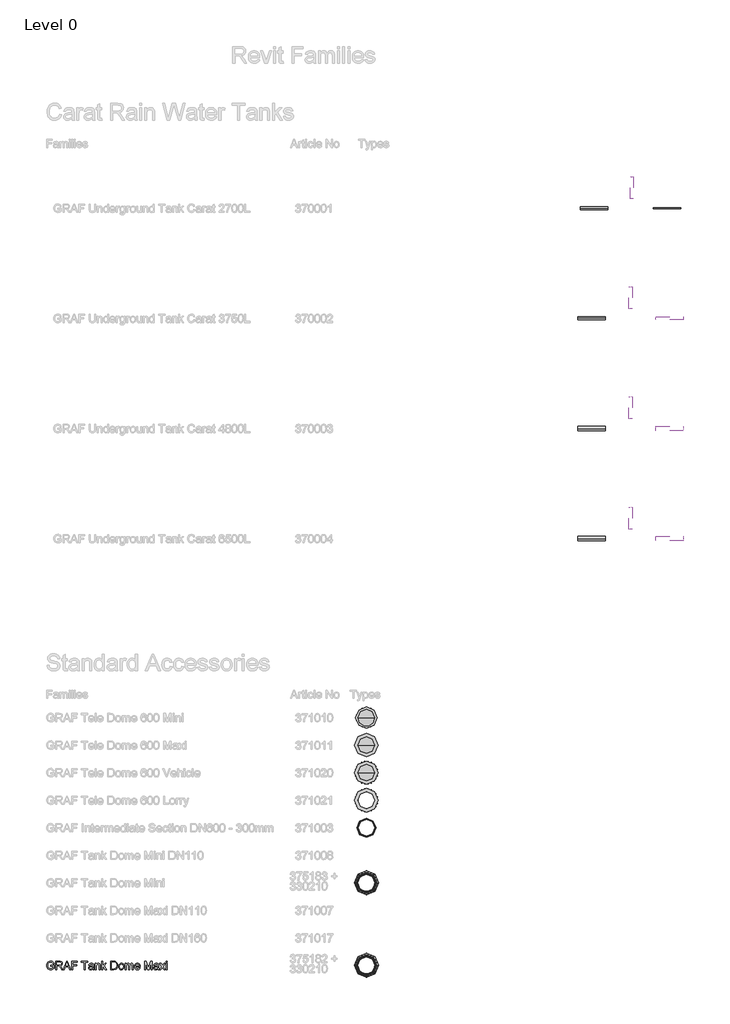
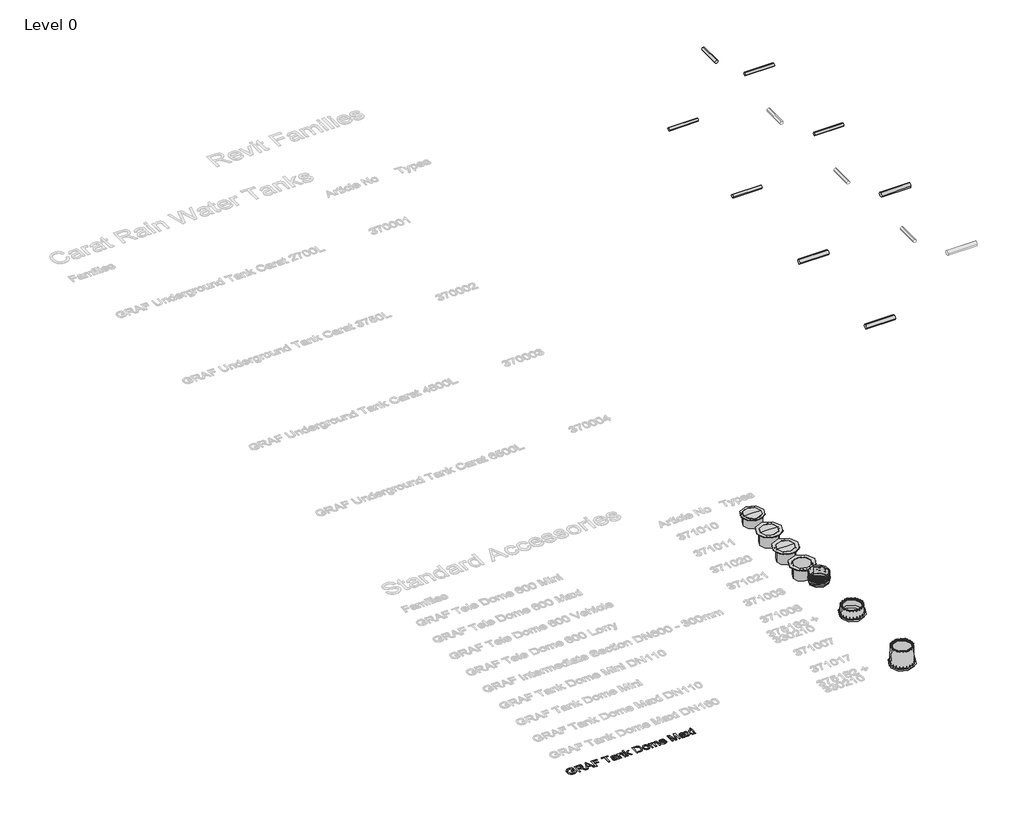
# One storey, part 1 of 19: 12 pipe segments, 8 proxies.
"""IFC4 building model written with IfcOpenShell, lengths in millimetres."""

from ifc_helpers import new_model, si_unit, point, frame, frame_2d, origin, origin_with_axes, place, context, project, spatial, polyline, circle_curve, trimmed, segment, composite_curve, outline, extrude, transform, mapped, element, save
from components import specialty_equipment_e8b2a2d0, specialty_equipment_5184973a, specialty_equipment_2c5f0238, proxy_600_mini_2_8c9d897d, dome_600_vehicle_2_504724ee, intermediate_section_dn600_300mm_2_32245d74, tank_dome_mini_c82e10f8

model = new_model("IFC4")

# Units and contexts
model_context = context("Model", 3, world=origin())
ifc_project = project(units=[si_unit("LENGTHUNIT", "METRE", prefix="MILLI")], contexts=[model_context])

# Site, building, storey
site = spatial("IfcSite", under=ifc_project)
building = spatial("IfcBuilding", under=site)
storey = spatial("IfcBuildingStorey", under=building, Name="Level 0", Elevation=0.0)

# Proxies
placement = place(None, origin())
specialty_equipment_shape = specialty_equipment_e8b2a2d0(model_context)
element("IfcBuildingElementProxy", 1, Name="GRAF Tank Dome Maxi : Tank Dome Maxi", ObjectType="GRAF Tank Dome Maxi : Tank Dome Maxi", at=placement, inside=storey, context=model_context, shape_type="MappedRepresentation", body=[
    mapped(specialty_equipment_shape, transform((-3770.8351154, -18050.7016432, 0.0), x_axis=(1.0, 0.0, 0.0), y_axis=(0.0, 1.0, 0.0), z_axis=(0.0, 0.0, 1.0))),
])
specialty_equipment_2_shape = specialty_equipment_5184973a(model_context)
element("IfcBuildingElementProxy", 2, Name="GRAF Tele Dome 600 Maxi : 600 Maxi 2", ObjectType="GRAF Tele Dome 600 Maxi : 600 Maxi 2", at=placement, inside=storey, context=model_context, shape_type="MappedRepresentation", body=[
    mapped(specialty_equipment_2_shape, transform((-3770.8351154, -10051.0975649, 0.0), x_axis=(1.0, 0.0, 0.0), y_axis=(0.0, 1.0, 0.0), z_axis=(0.0, 0.0, 1.0))),
])
specialty_equipment_3_shape = specialty_equipment_2c5f0238(model_context)
element("IfcBuildingElementProxy", 3, Name="GRAF Tele Dome 600 Lorry : Dome 600 Lorry 2", ObjectType="GRAF Tele Dome 600 Lorry : Dome 600 Lorry 2", at=placement, inside=storey, context=model_context, shape_type="MappedRepresentation", body=[
    mapped(specialty_equipment_3_shape, transform((-3770.8351154, -12050.7016432, 0.0), x_axis=(1.0, 0.0, 0.0), y_axis=(0.0, 1.0, 0.0), z_axis=(0.0, 0.0, 1.0))),
])
element("IfcBuildingElementProxy", 4, Name="300mm Arial", ObjectType="300mm Arial", at=placement, inside=storey, context=model_context, shape_type="SweptSolid", body=[
    extrude(outline(polyline([(-15240.9940387, -18082.9794047), (-15240.9940387, -18045.3082884), (-15118.5629107, -18045.3082884), (-15118.5629107, -18157.9537553), (-15148.3153671, -18178.6471176), (-15179.0059225, -18193.4911561), (-15210.5610007, -18202.4306885), (-15242.9070251, -18205.4105327), (-15285.1674693, -18200.674052), (-15323.3628175, -18186.46461), (-15355.0926395, -18163.2788472), (-15377.9565055, -18131.6134045), (-15391.7796715, -18093.6295885), (-15396.3873935, -18051.4887059), (-15391.7980656, -18009.0443207), (-15378.0300819, -17969.5613856), (-15355.6536596, -17936.442809), (-15325.2390156, -17913.0914993), (-15288.1932987, -17899.2407422), (-15245.9236575, -17894.6238232), (-15214.8928112, -17897.3001647), (-15186.9889618, -17905.3291892), (-15163.4904994, -17918.1314827), (-15145.6758138, -17935.1276309), (-15132.4964413, -17957.1361712), (-15122.9039183, -17984.9756412), (-15157.6319786, -17994.7613023), (-15165.3850917, -17974.9048716), (-15174.8120678, -17959.9228773), (-15187.2832674, -17948.6289001), (-15204.169051, -17939.8365204), (-15224.3013932, -17934.1803347), (-15246.5122687, -17932.2949395), (-15272.5123287, -17934.3274875), (-15294.7415982, -17940.4251316), (-15313.1173039, -17949.8245166), (-15327.5566722, -17961.7622873), (-15346.9440533, -17990.7881767), (-15355.7732212, -18019.225455), (-15358.7162772, -18049.9436015), (-15355.175413, -18085.9684459), (-15344.5528204, -18115.6105377), (-15327.1703961, -18138.6583447), (-15303.3500369, -18154.9003348), (-15275.4737787, -18164.529646), (-15245.9236575, -18167.7394164), (-15219.831627, -18165.3205923), (-15194.3833899, -18158.0641199), (-15172.2828791, -18148.0669267), (-15156.234027, -18137.42594), (-15156.234027, -18082.9794047), (-15240.9940387, -18082.9794047)])), origin_with_axes(), (0.0, 0.0, 1.0), 10.0),
    extrude(outline(polyline([(-15057.3473467, -18200.7016432), (-15057.3473467, -17899.3327127), (-14927.4850024, -17899.3327127), (-14892.5821982, -17901.3652607), (-14867.1891434, -17907.4629048), (-14848.6294968, -17918.7200939), (-14834.2269167, -17936.2312768), (-14824.9838815, -17957.9455116), (-14821.9028698, -17981.811856), (-14827.0072325, -18011.4999331), (-14842.3203206, -18036.1112385), (-14853.9200997, -18046.1406214), (-14868.3019865, -18054.1558504), (-14905.4120827, -18064.1438466), (-14884.0013506, -18080.257078), (-14853.467145, -18119.0318402), (-14803.2144645, -18200.7016432), (-14846.9924219, -18200.7016432), (-14886.2086426, -18138.2352804), (-14914.5355562, -18096.8853441), (-14934.4379722, -18077.3508102), (-14952.3538253, -18070.1771113), (-14974.2060158, -18068.8527361), (-15019.6762304, -18068.8527361), (-15019.6762304, -18200.7016432), (-15057.3473467, -18200.7016432)]), holes=[polyline([(-15019.6762304, -18031.1816198), (-14935.3576771, -18031.1816198), (-14911.1418448, -18029.8480476), (-14892.3522719, -18025.8473309), (-14878.2072092, -18018.9127553), (-14867.9249074, -18008.7776063), (-14861.6617165, -17996.5179388), (-14859.5739861, -17983.2098076), (-14863.5563087, -17964.834102), (-14875.5032765, -17950.0268517), (-14896.058683, -17940.2595847), (-14925.8663217, -17937.003829), (-15019.6762304, -17937.003829), (-15019.6762304, -18031.1816198)])]), origin_with_axes(), (0.0, 0.0, 1.0), 10.0),
    extrude(outline(polyline([(-14791.0743586, -18200.7016432), (-14670.7769462, -17899.3327127), (-14638.6976362, -17899.3327127), (-14518.4002238, -18200.7016432), (-14558.2050557, -18200.7016432), (-14592.7123868, -18106.5238524), (-14716.835772, -18106.5238524), (-14751.2695268, -18200.7016432), (-14791.0743586, -18200.7016432)]), holes=[polyline([(-14703.003409, -18068.8527361), (-14606.4711735, -18068.8527361), (-14633.6208647, -17994.7613023), (-14654.7372912, -17937.003829), (-14673.499273, -17988.2865792), (-14703.003409, -18068.8527361)])]), origin_with_axes(), (0.0, 0.0, 1.0), 10.0),
    extrude(outline(polyline([(-14478.1539335, -18200.7016432), (-14478.1539335, -17899.3327127), (-14275.6716834, -17899.3327127), (-14275.6716834, -17937.003829), (-14440.4828172, -17937.003829), (-14440.4828172, -18026.4727303), (-14299.2161311, -18026.4727303), (-14299.2161311, -18064.1438466), (-14440.4828172, -18064.1438466), (-14440.4828172, -18200.7016432), (-14478.1539335, -18200.7016432)])), origin_with_axes(), (0.0, 0.0, 1.0), 10.0),
    extrude(outline(polyline([(-14030.8094274, -18200.7016432), (-14030.8094274, -17937.003829), (-14129.6961077, -17937.003829), (-14129.6961077, -17899.3327127), (-13894.2516308, -17899.3327127), (-13894.2516308, -17937.003829), (-13993.1383111, -17937.003829), (-13993.1383111, -18200.7016432), (-14030.8094274, -18200.7016432)])), origin_with_axes(), (0.0, 0.0, 1.0), 10.0),
    extrude(outline(polyline([(-13715.3138283, -18172.4483059), (-13733.312455, -18187.8809556), (-13751.8445105, -18197.9793164), (-13771.3330592, -18203.5527286), (-13792.2011653, -18205.4105327), (-13823.6826671, -18200.9407665), (-13846.905218, -18187.5314677), (-13861.2250247, -18167.1691993), (-13865.9982936, -18141.8405239), (-13864.1956718, -18126.2239332), (-13858.7878065, -18112.0420823), (-13850.4460822, -18099.9019765), (-13839.8418837, -18090.410621), (-13813.4647447, -18078.049786), (-13780.8703999, -18072.3844033), (-13742.353155, -18066.4247149), (-13715.5345575, -18059.434957), (-13715.3138283, -18051.0472475), (-13717.9073964, -18034.2350404), (-13725.6881006, -18023.2353687), (-13743.088919, -18015.0683884), (-13767.3323425, -18012.3460616), (-13789.7731442, -18014.1578805), (-13805.4449172, -18019.5933369), (-13816.1318891, -18029.6457125), (-13823.6182877, -18045.3082884), (-13861.289404, -18040.5993989), (-13854.7503016, -18019.9980071), (-13844.9922316, -18003.8111994), (-13831.1046863, -17991.4319702), (-13812.1771577, -17982.2533144), (-13789.0281831, -17976.5695376), (-13762.4763001, -17974.6749453), (-13737.009669, -17976.3488084), (-13716.8221445, -17981.3703976), (-13701.601027, -17988.9211756), (-13691.0336167, -17998.1826048), (-13684.0254646, -18009.6329319), (-13679.482122, -18023.7504035), (-13677.642712, -18056.7126303), (-13677.642712, -18103.5807964), (-13675.7297257, -18169.0270034), (-13668.224933, -18200.7016432), (-13705.8960493, -18200.7016432), (-13715.3138283, -18172.4483059)]), holes=[polyline([(-13715.3138283, -18097.1060733), (-13776.0879339, -18108.657568), (-13808.4983377, -18114.7644091), (-13823.1768293, -18124.697223), (-13828.3271773, -18139.1917736), (-13825.522077, -18150.3937803), (-13817.1067764, -18159.5724361), (-13803.2652163, -18165.6976713), (-13784.1813378, -18167.7394164), (-13763.9478281, -18165.4861392), (-13746.0687631, -18158.7263075), (-13731.5742125, -18148.7659025), (-13721.4942459, -18136.9109052), (-13717.0244796, -18124.697223), (-13715.5345575, -18107.7746512), (-13715.3138283, -18097.1060733)])]), origin_with_axes(), (0.0, 0.0, 1.0), 10.0),
    extrude(outline(polyline([(-13625.8449271, -18200.7016432), (-13625.8449271, -17979.3838349), (-13588.1738108, -17979.3838349), (-13588.1738108, -18010.2859225), (-13575.0864088, -17994.70612), (-13559.3686506, -17983.5776896), (-13541.0205361, -17976.9006314), (-13520.0420653, -17974.6749453), (-13501.4732216, -17976.4683701), (-13484.4678764, -17981.8486442), (-13470.2860255, -17990.1443832), (-13460.1876647, -18000.6842024), (-13448.8936874, -18028.3857166), (-13446.9071247, -18064.8060342), (-13446.9071247, -18200.7016432), (-13484.578241, -18200.7016432), (-13484.578241, -18069.8828057), (-13488.9192485, -18036.5526969), (-13494.9249221, -18026.6290801), (-13504.2599277, -18018.9311494), (-13516.2252896, -18013.9923336), (-13530.122032, -18012.3460616), (-13552.1857546, -18016.0432757), (-13570.9937216, -18027.1349178), (-13578.5100106, -18036.1894135), (-13583.8787885, -18048.5640441), (-13588.1738108, -18083.2737103), (-13588.1738108, -18200.7016432), (-13625.8449271, -18200.7016432)])), origin_with_axes(), (0.0, 0.0, 1.0), 10.0),
    extrude(outline(polyline([(-13395.1093397, -18200.7016432), (-13395.1093397, -17899.3327127), (-13357.4382234, -17899.3327127), (-13357.4382234, -18061.274367), (-13272.9725173, -17979.3838349), (-13220.8804268, -17979.3838349), (-13306.3762025, -18062.3044366), (-13216.1715373, -18200.7016432), (-13260.1702239, -18200.7016432), (-13333.3787409, -18088.4976346), (-13357.4382234, -18111.8213531), (-13357.4382234, -18200.7016432), (-13395.1093397, -18200.7016432)])), origin_with_axes(), (0.0, 0.0, 1.0), 10.0),
    extrude(outline(polyline([(-13060.7781825, -18200.7016432), (-13060.7781825, -17899.3327127), (-12956.8147307, -17899.3327127), (-12903.030383, -17903.6737203), (-12879.0076887, -17912.0430357), (-12858.7373908, -17925.2316052), (-12837.8968757, -17948.1874417), (-12823.0528372, -17976.7350845), (-12814.1684871, -18010.3227107), (-12811.207037, -18048.3984972), (-12813.2119939, -18080.7445216), (-12819.2268645, -18109.209391), (-12828.3871262, -18133.4436174), (-12839.8282562, -18153.097713), (-12852.9984316, -18168.6131361), (-12867.3458295, -18180.4313452), (-12883.8177458, -18189.1961338), (-12903.3614768, -18195.5512952), (-12951.8115355, -18200.7016432), (-13060.7781825, -18200.7016432)]), holes=[polyline([(-13023.1070662, -18163.0305269), (-12956.4468487, -18163.0305269), (-12928.8740931, -18161.6693635), (-12907.9600017, -18157.5858733), (-12892.1778641, -18151.0191797), (-12880.0009701, -18142.2084059), (-12866.9135681, -18125.9020365), (-12857.0819218, -18104.794807), (-12850.9290954, -18078.794747), (-12848.8781533, -18047.809886), (-12852.8972641, -18006.7542553), (-12864.9545965, -17976.4407789), (-12882.7692821, -17955.618658), (-12904.0604526, -17943.0370938), (-12925.7287021, -17938.5121452), (-12957.4769183, -17937.003829), (-13023.1070662, -17937.003829), (-13023.1070662, -18163.0305269)])]), origin_with_axes(), (0.0, 0.0, 1.0), 10.0),
    extrude(outline(polyline([(-12773.5359207, -18090.042739), (-12771.4987741, -18061.3801331), (-12765.3873345, -18036.6814556), (-12755.2016018, -18015.9467067), (-12740.9415759, -17999.1758862), (-12726.5849811, -17988.4567246), (-12710.7384641, -17980.8001806), (-12693.4020251, -17976.2062541), (-12674.575664, -17974.6749453), (-12653.7926305, -17976.5396472), (-12635.0007584, -17982.1337528), (-12618.2000475, -17991.4572621), (-12603.3904979, -18004.5101751), (-12591.3032751, -18020.8510335), (-12582.6695445, -18040.0383788), (-12577.4893062, -18062.0722111), (-12575.7625601, -18086.9525303), (-12578.8159806, -18125.0099227), (-12587.9762423, -18153.9806298), (-12602.9766307, -18175.6764705), (-12623.5504313, -18191.9092635), (-12647.9869928, -18202.0352154), (-12674.575664, -18205.4105327), (-12695.6622001, -18203.5527286), (-12714.6288162, -18197.9793164), (-12731.4755123, -18188.690296), (-12746.2022884, -18175.6856675), (-12758.1607526, -18159.18616), (-12766.7025126, -18139.4125028), (-12771.8275687, -18116.3646958), (-12773.5359207, -18090.042739)]), holes=[polyline([(-12735.8648044, -18089.9691626), (-12731.5054027, -18124.0626265), (-12718.4271978, -18148.3520353), (-12698.7455111, -18162.8925711), (-12674.575664, -18167.7394164), (-12650.5161815, -18162.86498), (-12630.871283, -18148.2416707), (-12617.793078, -18123.6303652), (-12613.4336764, -18088.7919402), (-12617.8206692, -18055.6917577), (-12630.9816476, -18031.7334428), (-12650.6541372, -18017.1929069), (-12674.575664, -18012.3460616), (-12698.7455111, -18017.1745128), (-12718.4271978, -18031.6598664), (-12731.5054027, -18055.8940928), (-12735.8648044, -18089.9691626)])]), origin_with_axes(), (0.0, 0.0, 1.0), 10.0),
    extrude(outline(polyline([(-12533.3825542, -18200.7016432), (-12533.3825542, -17979.3838349), (-12495.7114379, -17979.3838349), (-12495.7114379, -18015.8041524), (-12484.3806725, -17999.0747187), (-12469.8125455, -17985.9689226), (-12452.5036976, -17977.4984396), (-12432.9507696, -17974.6749453), (-12411.9998899, -17977.5536219), (-12395.2060768, -17986.1896518), (-12382.6613008, -18000.0128178), (-12374.4575323, -18018.4529028), (-12360.7263368, -17999.3000464), (-12345.0637609, -17985.6194347), (-12327.4698045, -17977.4110677), (-12307.9444676, -17974.6749453), (-12279.626751, -17979.227485), (-12258.6850684, -17992.8851041), (-12245.7448193, -18016.0156845), (-12241.4314029, -18048.9871084), (-12241.4314029, -18200.7016432), (-12279.1025192, -18200.7016432), (-12279.1025192, -18065.1739161), (-12282.5973981, -18033.7200056), (-12287.5086228, -18025.0471875), (-12295.2525388, -18018.2321736), (-12305.2129438, -18013.8175896), (-12316.7736355, -18012.3460616), (-12337.1818892, -18016.1168521), (-12353.8193524, -18027.4292234), (-12364.8834034, -18047.0557279), (-12368.5714204, -18075.7689176), (-12368.5714204, -18200.7016432), (-12406.2425367, -18200.7016432), (-12406.2425367, -18060.9800614), (-12408.4222375, -18039.6796939), (-12414.96134, -18024.4861675), (-12426.4668494, -18015.3810881), (-12443.545771, -18012.3460616), (-12458.0587157, -18014.3694126), (-12471.4312262, -18020.4394655), (-12482.4676861, -18030.4090676), (-12489.9724788, -18044.131066), (-12494.2766981, -18063.1689593), (-12495.7114379, -18089.0862458), (-12495.7114379, -18200.7016432), (-12533.3825542, -18200.7016432)])), origin_with_axes(), (0.0, 0.0, 1.0), 10.0),
    extrude(outline(polyline([(-12029.972832, -18134.7771896), (-11993.0374797, -18139.4860792), (-12006.3456109, -18167.3163521), (-12027.5815991, -18188.1200789), (-12056.2671976, -18201.0879193), (-12091.92416, -18205.4105327), (-12115.2984623, -18203.5458308), (-12136.1251817, -18197.9517253), (-12154.4043184, -18188.6282159), (-12170.1358722, -18175.5753029), (-12182.7864143, -18159.1562696), (-12191.8225158, -18139.7343995), (-12197.2441767, -18117.3096927), (-12199.051397, -18091.882149), (-12197.2257826, -18065.5923819), (-12191.7489394, -18042.4204147), (-12182.6208674, -18022.3662475), (-12169.8415666, -18005.4298801), (-12154.1513995, -17991.9745962), (-12136.2907286, -17982.363679), (-12116.259554, -17976.5971288), (-12094.0578756, -17974.6749453), (-12072.5712678, -17976.5925302), (-12053.1402007, -17982.3452849), (-12035.7646742, -17991.9332094), (-12020.4446884, -18005.3563037), (-12007.9389998, -18022.2558829), (-11999.0063651, -18042.2732619), (-11993.6467843, -18065.4084409), (-11991.8602573, -18091.6614198), (-11992.0809865, -18101.8149629), (-12161.3802807, -18101.8149629), (-12154.8595723, -18130.0131178), (-12139.7120312, -18150.7432682), (-12117.8506436, -18163.4903794), (-12091.188396, -18167.7394164), (-12071.1388273, -18165.7712477), (-12054.2530437, -18159.8667417), (-12040.5310453, -18149.6580163), (-12029.972832, -18134.7771896)]), holes=[polyline([(-12161.3802807, -18064.1438466), (-12029.5313736, -18064.1438466), (-12034.6265393, -18044.2414306), (-12044.6145354, -18030.0043974), (-12066.5770906, -18016.7606456), (-12094.2050284, -18012.3460616), (-12119.5980831, -18015.8685317), (-12140.594948, -18026.4359421), (-12155.1906661, -18042.9078584), (-12161.3802807, -18064.1438466)])]), origin_with_axes(), (0.0, 0.0, 1.0), 10.0),
    extrude(outline(polyline([(-11831.758013, -18200.7016432), (-11831.758013, -17899.3327127), (-11766.9372055, -17899.3327127), (-11705.2801831, -18111.7477767), (-11692.8457717, -18156.1143454), (-11679.3812906, -18108.0689568), (-11618.7543378, -17899.3327127), (-11553.9335303, -17899.3327127), (-11553.9335303, -18200.7016432), (-11591.6046466, -18200.7016432), (-11591.6046466, -17937.003829), (-11667.3147612, -18200.7016432), (-11718.3767821, -18200.7016432), (-11794.0868967, -17937.003829), (-11794.0868967, -18200.7016432), (-11831.758013, -18200.7016432)])), origin_with_axes(), (0.0, 0.0, 1.0), 10.0),
    extrude(outline(polyline([(-11351.4512801, -18172.4483059), (-11369.4499067, -18187.8809556), (-11387.9819623, -18197.9793164), (-11407.4705109, -18203.5527286), (-11428.3386171, -18205.4105327), (-11459.8201189, -18200.9407665), (-11483.0426698, -18187.5314677), (-11497.3624765, -18167.1691993), (-11502.1357454, -18141.8405239), (-11500.3331236, -18126.2239332), (-11494.9252582, -18112.0420823), (-11486.583534, -18099.9019765), (-11475.9793355, -18090.410621), (-11449.6021964, -18078.049786), (-11417.0078517, -18072.3844033), (-11378.4906068, -18066.4247149), (-11351.6720093, -18059.434957), (-11351.4512801, -18051.0472475), (-11354.0448482, -18034.2350404), (-11361.8255524, -18023.2353687), (-11379.2263708, -18015.0683884), (-11403.4697942, -18012.3460616), (-11425.910596, -18014.1578805), (-11441.5823689, -18019.5933369), (-11452.2693409, -18029.6457125), (-11459.7557395, -18045.3082884), (-11497.4268558, -18040.5993989), (-11490.8877534, -18019.9980071), (-11481.1296834, -18003.8111994), (-11467.2421381, -17991.4319702), (-11448.3146095, -17982.2533144), (-11425.1656349, -17976.5695376), (-11398.6137519, -17974.6749453), (-11373.1471208, -17976.3488084), (-11352.9595963, -17981.3703976), (-11337.7384788, -17988.9211756), (-11327.1710684, -17998.1826048), (-11320.1629164, -18009.6329319), (-11315.6195738, -18023.7504035), (-11313.7801638, -18056.7126303), (-11313.7801638, -18103.5807964), (-11311.8671774, -18169.0270034), (-11304.3623847, -18200.7016432), (-11342.0335011, -18200.7016432), (-11351.4512801, -18172.4483059)]), holes=[polyline([(-11351.4512801, -18097.1060733), (-11412.2253857, -18108.657568), (-11444.6357895, -18114.7644091), (-11459.3142811, -18124.697223), (-11464.464629, -18139.1917736), (-11461.6595288, -18150.3937803), (-11453.2442282, -18159.5724361), (-11439.4026681, -18165.6976713), (-11420.3187896, -18167.7394164), (-11400.0852799, -18165.4861392), (-11382.2062149, -18158.7263075), (-11367.7116643, -18148.7659025), (-11357.6316976, -18136.9109052), (-11353.1619314, -18124.697223), (-11351.6720093, -18107.7746512), (-11351.4512801, -18097.1060733)])]), origin_with_axes(), (0.0, 0.0, 1.0), 10.0),
    extrude(outline(polyline([(-11285.5268266, -18200.7016432), (-11205.0342461, -18089.4541278), (-11280.8179371, -17979.3838349), (-11235.4948753, -17979.3838349), (-11198.9274049, -18032.3588422), (-11181.8576804, -18057.3748179), (-11167.0688241, -18036.9205789), (-11125.4245823, -17979.3838349), (-11080.1015205, -17979.3838349), (-11159.7111842, -18089.4541278), (-11083.0445764, -18200.7016432), (-11128.3676383, -18200.7016432), (-11174.5000405, -18133.8206964), (-11182.9613263, -18121.6070142), (-11240.2037648, -18200.7016432), (-11285.5268266, -18200.7016432)])), origin_with_axes(), (0.0, 0.0, 1.0), 10.0),
    extrude(outline(polyline([(-11050.0823497, -17937.003829), (-11050.0823497, -17899.3327127), (-11012.4112334, -17899.3327127), (-11012.4112334, -17937.003829), (-11050.0823497, -17937.003829)])), origin_with_axes(), (0.0, 0.0, 1.0), 10.0),
    extrude(outline(polyline([(-11050.0823497, -18200.7016432), (-11050.0823497, -17979.3838349), (-11012.4112334, -17979.3838349), (-11012.4112334, -18200.7016432), (-11050.0823497, -18200.7016432)])), origin_with_axes(), (0.0, 0.0, 1.0), 10.0),
])
proxy_600_mini_2_shape = proxy_600_mini_2_8c9d897d(model_context)
element("IfcBuildingElementProxy", 5, Name="GRAF Tele Dome 600 Mini : 600 Mini 2", ObjectType="GRAF Tele Dome 600 Mini : 600 Mini 2", at=placement, inside=storey, context=model_context, shape_type="MappedRepresentation", body=[
    mapped(proxy_600_mini_2_shape, transform((-3770.8351154, -9051.0975649, 0.0), x_axis=(1.0, 0.0, 0.0), y_axis=(0.0, 1.0, 0.0), z_axis=(0.0, 0.0, 1.0))),
])
dome_600_vehicle_2_shape = dome_600_vehicle_2_504724ee(model_context)
element("IfcBuildingElementProxy", 6, Name="GRAF Tele Dome 600 Vehicle : Dome 600 Vehicle 2", ObjectType="GRAF Tele Dome 600 Vehicle : Dome 600 Vehicle 2", at=placement, inside=storey, context=model_context, shape_type="MappedRepresentation", body=[
    mapped(dome_600_vehicle_2_shape, transform((-3770.8351154, -11050.7016432, 0.0), x_axis=(1.0, 0.0, 0.0), y_axis=(0.0, 1.0, 0.0), z_axis=(0.0, 0.0, 1.0))),
])
intermediate_section_dn600_300mm_2_shape = intermediate_section_dn600_300mm_2_32245d74(model_context)
element("IfcBuildingElementProxy", 7, Name="GRAF Intermediate Section DN600 - 300mm : Intermediate Section DN600 - 300mm 2", ObjectType="GRAF Intermediate Section DN600 - 300mm : Intermediate Section DN600 - 300mm 2", at=placement, inside=storey, context=model_context, shape_type="MappedRepresentation", body=[
    mapped(intermediate_section_dn600_300mm_2_shape, transform((-3485.8351154, -13050.7016432, 0.0), x_axis=(1.0, 0.0, 0.0), y_axis=(0.0, 1.0, 0.0), z_axis=(0.0, 0.0, 1.0))),
])
tank_dome_mini_shape = tank_dome_mini_c82e10f8(model_context)
element("IfcBuildingElementProxy", 8, Name="GRAF Tank Dome Mini : Tank Dome Mini", ObjectType="GRAF Tank Dome Mini : Tank Dome Mini", at=placement, inside=storey, context=model_context, shape_type="MappedRepresentation", body=[
    mapped(tank_dome_mini_shape, transform((-3770.8351154, -15050.7016432, 0.0), x_axis=(1.0, 0.0, 0.0), y_axis=(0.0, 1.0, 0.0), z_axis=(0.0, 0.0, 1.0))),
])

# Pipe segments
element("IfcPipeSegment", 9, ObjectType="PE Waste Water", at=placement, inside=storey, context=model_context, shape_type="SweptSolid", body=[
    extrude(outline(composite_curve([segment(trimmed(circle_curve(frame_2d((9449.0232018, 1250.0)), 55.0), [point((9394.0232018, 1250.0))], [point((9449.0232018, 1305.0))], False, "CARTESIAN"), True, "CONTINUOUS"), segment(trimmed(circle_curve(frame_2d((9449.0232018, 1250.0)), 55.0), [point((9449.0232018, 1305.0))], [point((9504.0232018, 1250.0))], False, "CARTESIAN"), True, "CONTINUOUS"), segment(trimmed(circle_curve(frame_2d((9449.0232018, 1250.0)), 55.0), [point((9504.0232018, 1250.0))], [point((9449.0232018, 1195.0))], False, "CARTESIAN"), True, "CONTINUOUS"), segment(trimmed(circle_curve(frame_2d((9449.0232018, 1250.0)), 55.0), [point((9449.0232018, 1195.0))], [point((9394.0232018, 1250.0))], False, "CARTESIAN"), True, "CONTINUOUS")], self_intersect=False)), frame((6649.128271, 0.0, 0.0), z_axis=(1.0, 0.0, 0.0), x_axis=(0.0, 1.0, 0.0)), (0.0, 0.0, 1.0), 1000.0),
])
element("IfcPipeSegment", 10, ObjectType="PE Waste Water", at=placement, inside=storey, context=model_context, shape_type="SweptSolid", body=[
    extrude(outline(composite_curve([segment(trimmed(circle_curve(frame_2d((5449.0232018, 1440.0)), 55.0), [point((5394.0232018, 1440.0))], [point((5449.0232018, 1495.0))], False, "CARTESIAN"), True, "CONTINUOUS"), segment(trimmed(circle_curve(frame_2d((5449.0232018, 1440.0)), 55.0), [point((5449.0232018, 1495.0))], [point((5504.0232018, 1440.0))], False, "CARTESIAN"), True, "CONTINUOUS"), segment(trimmed(circle_curve(frame_2d((5449.0232018, 1440.0)), 55.0), [point((5504.0232018, 1440.0))], [point((5449.0232018, 1385.0))], False, "CARTESIAN"), True, "CONTINUOUS"), segment(trimmed(circle_curve(frame_2d((5449.0232018, 1440.0)), 55.0), [point((5449.0232018, 1385.0))], [point((5394.0232018, 1440.0))], False, "CARTESIAN"), True, "CONTINUOUS")], self_intersect=False)), frame((6749.128271, 0.0, 0.0), z_axis=(1.0, 0.0, 0.0), x_axis=(0.0, 1.0, 0.0)), (0.0, 0.0, 1.0), 1000.0),
])
element("IfcPipeSegment", 11, ObjectType="PE Waste Water", at=placement, inside=storey, context=model_context, shape_type="SweptSolid", body=[
    extrude(outline(composite_curve([segment(trimmed(circle_curve(frame_2d((1449.0232018, 1645.0)), 80.0), [point((1369.0232018, 1645.0))], [point((1449.0232018, 1725.0))], False, "CARTESIAN"), True, "CONTINUOUS"), segment(trimmed(circle_curve(frame_2d((1449.0232018, 1645.0)), 80.0), [point((1449.0232018, 1725.0))], [point((1529.0232018, 1645.0))], False, "CARTESIAN"), True, "CONTINUOUS"), segment(trimmed(circle_curve(frame_2d((1449.0232018, 1645.0)), 80.0), [point((1529.0232018, 1645.0))], [point((1449.0232018, 1565.0))], False, "CARTESIAN"), True, "CONTINUOUS"), segment(trimmed(circle_curve(frame_2d((1449.0232018, 1645.0)), 80.0), [point((1449.0232018, 1565.0))], [point((1369.0232018, 1645.0))], False, "CARTESIAN"), True, "CONTINUOUS")], self_intersect=False)), frame((6749.128271, 0.0, 0.0), z_axis=(1.0, 0.0, 0.0), x_axis=(0.0, 1.0, 0.0)), (0.0, 0.0, 1.0), 1000.0),
])
element("IfcPipeSegment", 12, ObjectType="PE Waste Water", at=placement, inside=storey, context=model_context, shape_type="SweptSolid", body=[
    extrude(outline(composite_curve([segment(trimmed(circle_curve(frame_2d((-2550.9767982, 1925.0)), 80.0), [point((-2630.9767982, 1925.0))], [point((-2550.9767982, 2005.0))], False, "CARTESIAN"), True, "CONTINUOUS"), segment(trimmed(circle_curve(frame_2d((-2550.9767982, 1925.0)), 80.0), [point((-2550.9767982, 2005.0))], [point((-2470.9767982, 1925.0))], False, "CARTESIAN"), True, "CONTINUOUS"), segment(trimmed(circle_curve(frame_2d((-2550.9767982, 1925.0)), 80.0), [point((-2470.9767982, 1925.0))], [point((-2550.9767982, 1845.0))], False, "CARTESIAN"), True, "CONTINUOUS"), segment(trimmed(circle_curve(frame_2d((-2550.9767982, 1925.0)), 80.0), [point((-2550.9767982, 1845.0))], [point((-2630.9767982, 1925.0))], False, "CARTESIAN"), True, "CONTINUOUS")], self_intersect=False)), frame((6749.128271, 0.0, 0.0), z_axis=(1.0, 0.0, 0.0), x_axis=(0.0, 1.0, 0.0)), (0.0, 0.0, 1.0), 1000.0),
])
element("IfcPipeSegment", 13, ObjectType="PE Waste Water", at=placement, inside=storey, context=model_context, shape_type="SweptSolid", body=[
    extrude(outline(composite_curve([segment(trimmed(circle_curve(frame_2d((-2550.9767982, 215.0)), 80.0), [point((-2470.9767982, 215.0))], [point((-2550.9767982, 135.0))], False, "CARTESIAN"), True, "CONTINUOUS"), segment(trimmed(circle_curve(frame_2d((-2550.9767982, 215.0)), 80.0), [point((-2550.9767982, 135.0))], [point((-2630.9767982, 215.0))], False, "CARTESIAN"), True, "CONTINUOUS"), segment(trimmed(circle_curve(frame_2d((-2550.9767982, 215.0)), 80.0), [point((-2630.9767982, 215.0))], [point((-2550.9767982, 295.0))], False, "CARTESIAN"), True, "CONTINUOUS"), segment(trimmed(circle_curve(frame_2d((-2550.9767982, 215.0)), 80.0), [point((-2550.9767982, 295.0))], [point((-2470.9767982, 215.0))], False, "CARTESIAN"), True, "CONTINUOUS")], self_intersect=False)), frame((3910.6313279, 0.0, 0.0), z_axis=(1.0, 0.0, 0.0), x_axis=(0.0, 1.0, 0.0)), (0.0, 0.0, 1.0), 1000.0),
])
element("IfcPipeSegment", 14, ObjectType="PE Waste Water", at=placement, inside=storey, context=model_context, shape_type="SweptSolid", body=[
    extrude(outline(composite_curve([segment(trimmed(circle_curve(frame_2d((1449.0232018, 175.0)), 80.0), [point((1529.0232018, 175.0))], [point((1449.0232018, 95.0))], False, "CARTESIAN"), True, "CONTINUOUS"), segment(trimmed(circle_curve(frame_2d((1449.0232018, 175.0)), 80.0), [point((1449.0232018, 95.0))], [point((1369.0232018, 175.0))], False, "CARTESIAN"), True, "CONTINUOUS"), segment(trimmed(circle_curve(frame_2d((1449.0232018, 175.0)), 80.0), [point((1369.0232018, 175.0))], [point((1449.0232018, 255.0))], False, "CARTESIAN"), True, "CONTINUOUS"), segment(trimmed(circle_curve(frame_2d((1449.0232018, 175.0)), 80.0), [point((1449.0232018, 255.0))], [point((1529.0232018, 175.0))], False, "CARTESIAN"), True, "CONTINUOUS")], self_intersect=False)), frame((3910.6313279, 0.0, 0.0), z_axis=(1.0, 0.0, 0.0), x_axis=(0.0, 1.0, 0.0)), (0.0, 0.0, 1.0), 1000.0),
])
element("IfcPipeSegment", 15, ObjectType="PE Waste Water", at=placement, inside=storey, context=model_context, shape_type="SweptSolid", body=[
    extrude(outline(composite_curve([segment(trimmed(circle_curve(frame_2d((5449.0232018, 150.0)), 55.0), [point((5504.0232018, 150.0))], [point((5449.0232018, 95.0))], False, "CARTESIAN"), True, "CONTINUOUS"), segment(trimmed(circle_curve(frame_2d((5449.0232018, 150.0)), 55.0), [point((5449.0232018, 95.0))], [point((5394.0232018, 150.0))], False, "CARTESIAN"), True, "CONTINUOUS"), segment(trimmed(circle_curve(frame_2d((5449.0232018, 150.0)), 55.0), [point((5394.0232018, 150.0))], [point((5449.0232018, 205.0))], False, "CARTESIAN"), True, "CONTINUOUS"), segment(trimmed(circle_curve(frame_2d((5449.0232018, 150.0)), 55.0), [point((5449.0232018, 205.0))], [point((5504.0232018, 150.0))], False, "CARTESIAN"), True, "CONTINUOUS")], self_intersect=False)), frame((3910.6313279, 0.0, 0.0), z_axis=(1.0, 0.0, 0.0), x_axis=(0.0, 1.0, 0.0)), (0.0, 0.0, 1.0), 1000.0),
])
element("IfcPipeSegment", 16, ObjectType="PE Waste Water", at=placement, inside=storey, context=model_context, shape_type="SweptSolid", body=[
    extrude(outline(composite_curve([segment(trimmed(circle_curve(frame_2d((9449.0232018, 150.0)), 55.0), [point((9504.0232018, 150.0))], [point((9449.0232018, 95.0))], False, "CARTESIAN"), True, "CONTINUOUS"), segment(trimmed(circle_curve(frame_2d((9449.0232018, 150.0)), 55.0), [point((9449.0232018, 95.0))], [point((9394.0232018, 150.0))], False, "CARTESIAN"), True, "CONTINUOUS"), segment(trimmed(circle_curve(frame_2d((9449.0232018, 150.0)), 55.0), [point((9394.0232018, 150.0))], [point((9449.0232018, 205.0))], False, "CARTESIAN"), True, "CONTINUOUS"), segment(trimmed(circle_curve(frame_2d((9449.0232018, 150.0)), 55.0), [point((9449.0232018, 205.0))], [point((9504.0232018, 150.0))], False, "CARTESIAN"), True, "CONTINUOUS")], self_intersect=False)), frame((4010.6313279, 0.0, 0.0), z_axis=(1.0, 0.0, 0.0), x_axis=(0.0, 1.0, 0.0)), (0.0, 0.0, 1.0), 1000.0),
])
element("IfcPipeSegment", 17, ObjectType="PE Waste Water", at=placement, inside=storey, context=model_context, shape_type="SweptSolid", body=[
    extrude(outline(composite_curve([segment(trimmed(circle_curve(frame_2d((1765.0, 5869.8797995)), 55.0), [point((1765.0, 5924.8797995))], [point((1820.0, 5869.8797995))], False, "CARTESIAN"), True, "CONTINUOUS"), segment(trimmed(circle_curve(frame_2d((1765.0, 5869.8797995)), 55.0), [point((1820.0, 5869.8797995))], [point((1765.0, 5814.8797995))], False, "CARTESIAN"), True, "CONTINUOUS"), segment(trimmed(circle_curve(frame_2d((1765.0, 5869.8797995)), 55.0), [point((1765.0, 5814.8797995))], [point((1710.0, 5869.8797995))], False, "CARTESIAN"), True, "CONTINUOUS"), segment(trimmed(circle_curve(frame_2d((1765.0, 5869.8797995)), 55.0), [point((1710.0, 5869.8797995))], [point((1765.0, 5924.8797995))], False, "CARTESIAN"), True, "CONTINUOUS")], self_intersect=False)), frame((0.0, 9799.0232018, 0.0), z_axis=(0.0, 1.0, 0.0), x_axis=(0.0, 0.0, 1.0)), (0.0, 0.0, 1.0), 800.0),
])
element("IfcPipeSegment", 18, ObjectType="PE Waste Water", at=placement, inside=storey, context=model_context, shape_type="SweptSolid", body=[
    extrude(outline(composite_curve([segment(trimmed(circle_curve(frame_2d((1955.0, 5829.8797995)), 55.0), [point((1955.0, 5884.8797995))], [point((2010.0, 5829.8797995))], False, "CARTESIAN"), True, "CONTINUOUS"), segment(trimmed(circle_curve(frame_2d((1955.0, 5829.8797995)), 55.0), [point((2010.0, 5829.8797995))], [point((1955.0, 5774.8797995))], False, "CARTESIAN"), True, "CONTINUOUS"), segment(trimmed(circle_curve(frame_2d((1955.0, 5829.8797995)), 55.0), [point((1955.0, 5774.8797995))], [point((1900.0, 5829.8797995))], False, "CARTESIAN"), True, "CONTINUOUS"), segment(trimmed(circle_curve(frame_2d((1955.0, 5829.8797995)), 55.0), [point((1900.0, 5829.8797995))], [point((1955.0, 5884.8797995))], False, "CARTESIAN"), True, "CONTINUOUS")], self_intersect=False)), frame((0.0, 5799.0232018, 0.0), z_axis=(0.0, 1.0, 0.0), x_axis=(0.0, 0.0, 1.0)), (0.0, 0.0, 1.0), 800.0),
])
element("IfcPipeSegment", 19, ObjectType="PE Waste Water", at=placement, inside=storey, context=model_context, shape_type="SweptSolid", body=[
    extrude(outline(composite_curve([segment(trimmed(circle_curve(frame_2d((2185.0, 5829.8797995)), 55.0), [point((2185.0, 5884.8797995))], [point((2240.0, 5829.8797995))], False, "CARTESIAN"), True, "CONTINUOUS"), segment(trimmed(circle_curve(frame_2d((2185.0, 5829.8797995)), 55.0), [point((2240.0, 5829.8797995))], [point((2185.0, 5774.8797995))], False, "CARTESIAN"), True, "CONTINUOUS"), segment(trimmed(circle_curve(frame_2d((2185.0, 5829.8797995)), 55.0), [point((2185.0, 5774.8797995))], [point((2130.0, 5829.8797995))], False, "CARTESIAN"), True, "CONTINUOUS"), segment(trimmed(circle_curve(frame_2d((2185.0, 5829.8797995)), 55.0), [point((2130.0, 5829.8797995))], [point((2185.0, 5884.8797995))], False, "CARTESIAN"), True, "CONTINUOUS")], self_intersect=False)), frame((0.0, 1799.0232018, 0.0), z_axis=(0.0, 1.0, 0.0), x_axis=(0.0, 0.0, 1.0)), (0.0, 0.0, 1.0), 800.0),
])
element("IfcPipeSegment", 20, ObjectType="PE Waste Water", at=placement, inside=storey, context=model_context, shape_type="SweptSolid", body=[
    extrude(outline(composite_curve([segment(trimmed(circle_curve(frame_2d((2465.0, 5829.8797995)), 55.0), [point((2465.0, 5884.8797995))], [point((2520.0, 5829.8797995))], False, "CARTESIAN"), True, "CONTINUOUS"), segment(trimmed(circle_curve(frame_2d((2465.0, 5829.8797995)), 55.0), [point((2520.0, 5829.8797995))], [point((2465.0, 5774.8797995))], False, "CARTESIAN"), True, "CONTINUOUS"), segment(trimmed(circle_curve(frame_2d((2465.0, 5829.8797995)), 55.0), [point((2465.0, 5774.8797995))], [point((2410.0, 5829.8797995))], False, "CARTESIAN"), True, "CONTINUOUS"), segment(trimmed(circle_curve(frame_2d((2465.0, 5829.8797995)), 55.0), [point((2410.0, 5829.8797995))], [point((2465.0, 5884.8797995))], False, "CARTESIAN"), True, "CONTINUOUS")], self_intersect=False)), frame((0.0, -2200.9767982, 0.0), z_axis=(0.0, 1.0, 0.0), x_axis=(0.0, 0.0, 1.0)), (0.0, 0.0, 1.0), 800.0),
])

save(model, "model.ifc")
